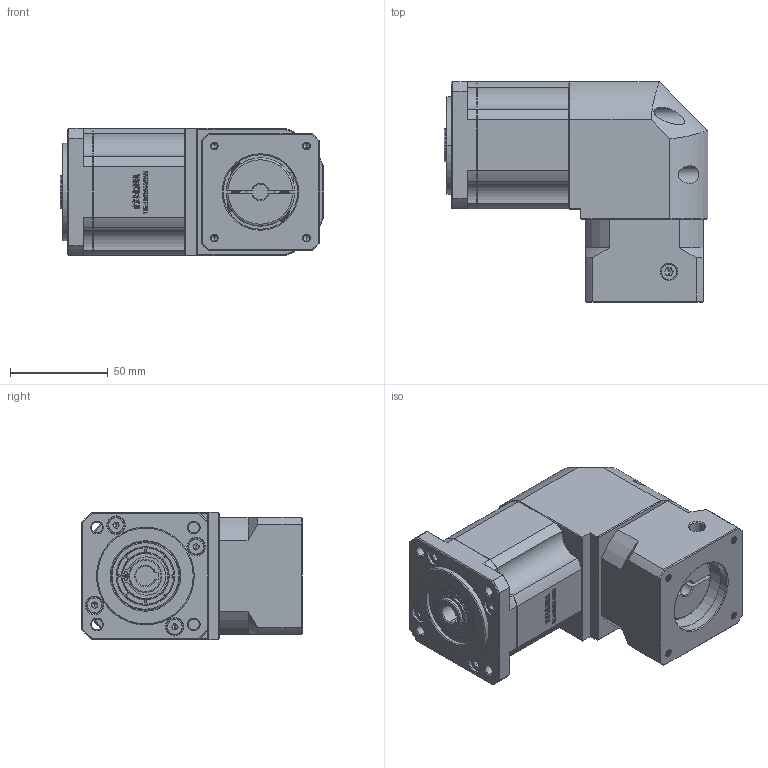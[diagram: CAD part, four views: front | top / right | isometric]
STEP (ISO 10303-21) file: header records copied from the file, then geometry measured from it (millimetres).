
FILE_DESCRIPTION (( 'STEP AP214' ), '1' );
FILE_NAME ('ZBR60-K10-L2-8-38.1-47.14x47.14-M4.STEP', '2022-04-19T08:10:17', ( '' ), ( 'Microsoft' ), 'SwSTEP 2.0', 'SolidWorks 2016', '' );
FILE_SCHEMA (( 'AUTOMOTIVE_DESIGN' ));
Length unit declared in the file: millimetre
Products named in the file (1): ZBR60-K10-L2-8-38.1-47.14x47.14-M4
Bounding box: 135 x 112.7 x 65 mm (x, y, z)
Volume: 584354.7 mm3; surface area: 81988.2 mm2
Topology: 5 solids, 5 shells, 2785 faces, 7549 edges, 4904 vertices
Faces by surface type: plane 1470, bspline 572, cylinder 387, cone 324, torus 32
Entity records: 146990 total; most frequent: CARTESIAN_POINT 50177, ORIENTED_EDGE 15042, DIRECTION 11561, EDGE_CURVE 7521, VECTOR 4989, LINE 4989, VERTEX_POINT 4904, AXIS2_PLACEMENT_3D 3286
